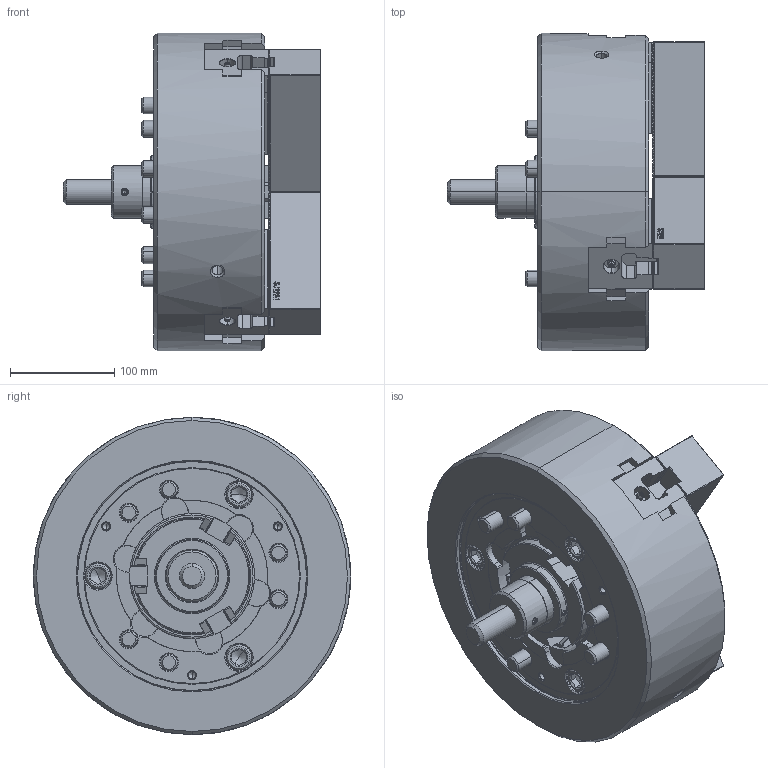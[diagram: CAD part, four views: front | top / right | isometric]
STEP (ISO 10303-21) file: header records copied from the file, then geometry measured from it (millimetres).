
FILE_DESCRIPTION (( 'STEP AP214' ), '1' );
FILE_NAME ('DT1_NL12_OUTSIDE_VIEW_OC.STEP', '2026-03-23T05:44:04', ( '' ), ( '' ), 'SwSTEP 2.0', 'SolidWorks 2022', '' );
FILE_SCHEMA (( 'AUTOMOTIVE_DESIGN' ));
Length unit declared in the file: millimetre
Products named in the file (11): DT1_NL12_TNUT^DT1_NL12; Copy of 61P413921^DT1_NL12; DT1_NL12_M14x45^DT1_NL12; DT1_NL12_BASE^DT1_NL12; DT1_NL12_OUTSIDE_VIEW_OC; DT1_NL12_COVER^DT1_NL12; DT1_NL12_M5x12^DT1_NL12; DT1_NL12_M16x100^DT1_NL12; DT1_NL12_DRAWSCREW^DT1_NL12; DT1_NL12_DN^DT1_NL12; DT1_NL12_SOFTJAW^DT1_NL12
Assembly tree (26 placements, depth 2):
  DT1_NL12_OUTSIDE_VIEW_OC
    DT1_NL12_SOFTJAW^DT1_NL12  x3
    DT1_NL12_TNUT^DT1_NL12  x3
    DT1_NL12_COVER^DT1_NL12
    DT1_NL12_DRAWSCREW^DT1_NL12
    Copy of 61P413921^DT1_NL12
    DT1_NL12_M16x100^DT1_NL12  x6
    DT1_NL12_M14x45^DT1_NL12  x6
    DT1_NL12_M5x12^DT1_NL12  x3
    DT1_NL12_DN^DT1_NL12
    DT1_NL12_BASE^DT1_NL12
Bounding box: 247 x 304 x 304 mm (x, y, z)
Volume: 8182998.7 mm3; surface area: 676396.1 mm2
Topology: 26 solids, 32 shells, 5212 faces, 14776 edges, 9676 vertices
Faces by surface type: plane 3764, cylinder 713, cone 436, bspline 225, torus 68, sphere 6
Entity records: 123084 total; most frequent: CARTESIAN_POINT 32668, ORIENTED_EDGE 20260, DIRECTION 16509, EDGE_CURVE 10130, LINE 7555, VECTOR 7555, VERTEX_POINT 6652, AXIS2_PLACEMENT_3D 4477
